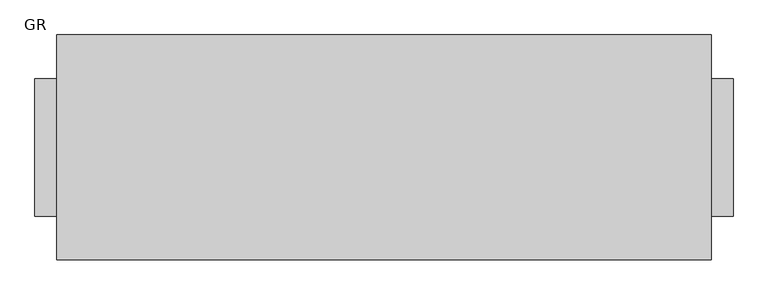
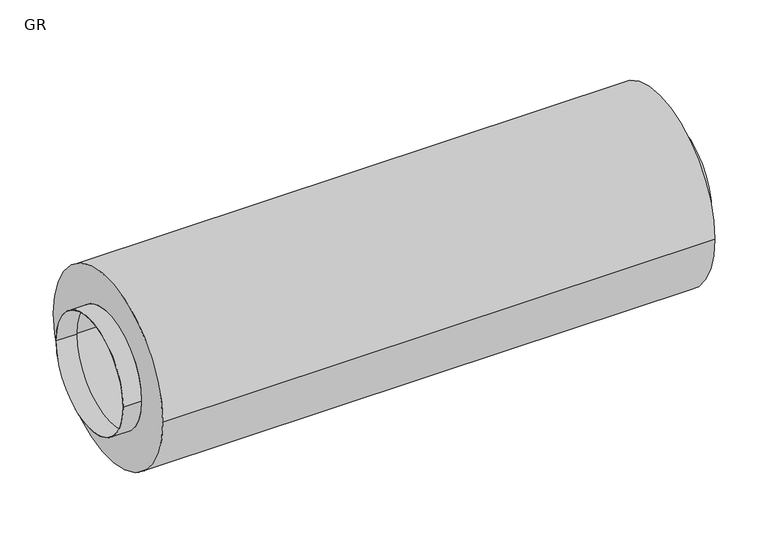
"""IFC4 building model written with IfcOpenShell, lengths in millimetres: damper geometry, DUA_UN_Round sound attenuator_SMA : GR."""

from ifc_helpers import new_model, si_unit, frame, origin, place, context, project, spatial, polyline, circle_curve, source, transform, mapped, element, save
from ifc_brep_helpers import plane_surface, cylinder_surface, revolved_surface, advanced_brep


def gr_9b835bf4(model_context):
    return source(origin(), model_context, "Body", "AdvancedBrep", [
        advanced_brep(
        [(745.0, 156.5, 0.0), (745.0, -156.5, 0.0), (800.0, -156.5, 0.0), (800.0, 156.5, 0.0), (-745.0, 157.5, 0.0), (-745.0, -157.5, 0.0), (745.0, -157.5, 0.0), (745.0, 157.5, 0.0), (-800.0, 156.5, 0.0), (-800.0, -156.5, 0.0), (-745.0, -156.5, 0.0), (-745.0, 156.5, 0.0), (-750.0, 157.5, 0.0), (-750.0, -157.5, 0.0), (-800.0, -157.5, 0.0), (-800.0, 157.5, 0.0), (750.0, 257.5, 0.0), (750.0, -257.5, 0.0), (-750.0, -257.5, 0.0), (-750.0, 257.5, 0.0), (800.0, 157.5, 0.0), (800.0, -157.5, 0.0), (750.0, -157.5, 0.0), (750.0, 157.5, 0.0)],
        [
            (0, 1, circle_curve(frame((745.0, 0.0, 0.0), z_axis=(-1.0, 0.0, 0.0), x_axis=(0.0, -1.0, 0.0)), 156.5)),
            (1, 2),
            (2, 3, circle_curve(frame((800.0, 0.0, 0.0), z_axis=(1.0, 0.0, 0.0), x_axis=(0.0, -1.0, 0.0)), 156.5)),
            (3, 0),
            (4, 5, circle_curve(frame((-745.0, 0.0, 0.0), z_axis=(-1.0, 0.0, 0.0), x_axis=(0.0, -1.0, 0.0)), 157.5)),
            (5, 6),
            (6, 7, circle_curve(frame((745.0, 0.0, 0.0), z_axis=(1.0, 0.0, 0.0), x_axis=(0.0, -1.0, 0.0)), 157.5)),
            (7, 4),
            (8, 9, circle_curve(frame((-800.0, 0.0, 0.0), z_axis=(-1.0, 0.0, 0.0), x_axis=(0.0, -1.0, 0.0)), 156.5)),
            (9, 10),
            (10, 11, circle_curve(frame((-745.0, 0.0, 0.0), z_axis=(1.0, 0.0, 0.0), x_axis=(0.0, -1.0, 0.0)), 156.5)),
            (11, 8),
            (12, 13, circle_curve(frame((-750.0, 0.0, 0.0), z_axis=(-1.0, 0.0, 0.0), x_axis=(0.0, -1.0, 0.0)), 157.5)),
            (13, 14),
            (14, 15, circle_curve(frame((-800.0, 0.0, 0.0), z_axis=(1.0, 0.0, 0.0), x_axis=(0.0, -1.0, 0.0)), 157.5)),
            (15, 12),
            (16, 17, circle_curve(frame((750.0, 0.0, 0.0), z_axis=(-1.0, 0.0, 0.0), x_axis=(0.0, -1.0, 0.0)), 257.5)),
            (17, 18),
            (18, 19, circle_curve(frame((-750.0, 0.0, 0.0), z_axis=(1.0, 0.0, 0.0), x_axis=(0.0, -1.0, 0.0)), 257.5)),
            (19, 16),
            (20, 21, circle_curve(frame((800.0, 0.0, 0.0), z_axis=(-1.0, 0.0, 0.0), x_axis=(0.0, -1.0, 0.0)), 157.5)),
            (21, 22),
            (22, 23, circle_curve(frame((750.0, 0.0, 0.0), z_axis=(1.0, 0.0, 0.0), x_axis=(0.0, -1.0, 0.0)), 157.5)),
            (23, 20),
            (1, 0, circle_curve(frame((745.0, 0.0, 0.0), z_axis=(-1.0, 0.0, 0.0), x_axis=(0.0, 1.0, 0.0)), 156.5)),
            (3, 2, circle_curve(frame((800.0, 0.0, 0.0), z_axis=(1.0, 0.0, 0.0), x_axis=(0.0, 1.0, 0.0)), 156.5)),
            (6, 7, circle_curve(frame((745.0, 0.0, 0.0), z_axis=(-1.0, 0.0, 0.0), x_axis=(0.0, 1.0, 0.0)), 157.5)),
            (5, 4, circle_curve(frame((-745.0, 0.0, 0.0), z_axis=(-1.0, 0.0, 0.0), x_axis=(0.0, 1.0, 0.0)), 157.5)),
            (10, 11, circle_curve(frame((-745.0, 0.0, 0.0), z_axis=(-1.0, 0.0, 0.0), x_axis=(0.0, 1.0, 0.0)), 156.5)),
            (9, 8, circle_curve(frame((-800.0, 0.0, 0.0), z_axis=(-1.0, 0.0, 0.0), x_axis=(0.0, 1.0, 0.0)), 156.5)),
            (14, 15, circle_curve(frame((-800.0, 0.0, 0.0), z_axis=(-1.0, 0.0, 0.0), x_axis=(0.0, 1.0, 0.0)), 157.5)),
            (13, 12, circle_curve(frame((-750.0, 0.0, 0.0), z_axis=(-1.0, 0.0, 0.0), x_axis=(0.0, 1.0, 0.0)), 157.5)),
            (18, 19, circle_curve(frame((-750.0, 0.0, 0.0), z_axis=(-1.0, 0.0, 0.0), x_axis=(0.0, 1.0, 0.0)), 257.5)),
            (17, 16, circle_curve(frame((750.0, 0.0, 0.0), z_axis=(-1.0, 0.0, 0.0), x_axis=(0.0, 1.0, 0.0)), 257.5)),
            (22, 23, circle_curve(frame((750.0, 0.0, 0.0), z_axis=(-1.0, 0.0, 0.0), x_axis=(0.0, 1.0, 0.0)), 157.5)),
            (21, 20, circle_curve(frame((800.0, 0.0, 0.0), z_axis=(-1.0, 0.0, 0.0), x_axis=(0.0, 1.0, 0.0)), 157.5)),
        ],
        [
            revolved_surface(polyline([(800.0, -156.5, 0.0), (745.0, -156.5, 0.0)]), (0.0, 0.0, 0.0), (1.0, 0.0, 0.0)),
            revolved_surface(polyline([(745.0, -157.5, 0.0), (-745.0, -157.5, 0.0)]), (0.0, 0.0, 0.0), (1.0, 0.0, 0.0)),
            revolved_surface(polyline([(-745.0, -156.5, 0.0), (-800.0, -156.5, 0.0)]), (0.0, 0.0, 0.0), (1.0, 0.0, 0.0)),
            cylinder_surface(frame((0.0, 0.0, 0.0), z_axis=(1.0, 0.0, 0.0), x_axis=(0.0, -1.0, 0.0)), 157.5),
            cylinder_surface(frame((0.0, 0.0, 0.0), z_axis=(1.0, 0.0, 0.0), x_axis=(0.0, -1.0, 0.0)), 257.5),
            revolved_surface(polyline([(800.0, 156.5, 0.0), (745.0, 156.5, 0.0)]), (0.0, 0.0, 0.0), (1.0, 0.0, 0.0)),
            plane_surface(frame((745.0, 0.0, 0.0), z_axis=(-1.0, 0.0, 0.0), x_axis=(0.0, 1.0, 0.0))),
            revolved_surface(polyline([(745.0, 157.5, 0.0), (-745.0, 157.5, 0.0)]), (0.0, 0.0, 0.0), (1.0, 0.0, 0.0)),
            plane_surface(frame((-745.0, 0.0, 0.0), z_axis=(1.0, 0.0, 0.0), x_axis=(0.0, 1.0, 0.0))),
            revolved_surface(polyline([(-745.0, 156.5, 0.0), (-800.0, 156.5, 0.0)]), (0.0, 0.0, 0.0), (1.0, 0.0, 0.0)),
            plane_surface(frame((-800.0, 0.0, 0.0), z_axis=(-1.0, 0.0, 0.0), x_axis=(0.0, 1.0, 0.0))),
            cylinder_surface(frame((0.0, 0.0, 0.0), z_axis=(1.0, 0.0, 0.0), x_axis=(0.0, 1.0, 0.0)), 157.5),
            plane_surface(frame((-750.0, 0.0, 0.0), z_axis=(-1.0, 0.0, 0.0), x_axis=(0.0, 1.0, 0.0))),
            cylinder_surface(frame((0.0, 0.0, 0.0), z_axis=(1.0, 0.0, 0.0), x_axis=(0.0, 1.0, 0.0)), 257.5),
            plane_surface(frame((750.0, 0.0, 0.0), z_axis=(1.0, 0.0, 0.0), x_axis=(0.0, 1.0, 0.0))),
            plane_surface(frame((800.0, 0.0, 0.0), z_axis=(1.0, 0.0, 0.0), x_axis=(0.0, 1.0, 0.0))),
        ],
        [
            (0, [[1, 2, 3, 4]]),
            (1, [[5, 6, 7, 8]]),
            (2, [[9, 10, 11, 12]]),
            (3, [[13, 14, 15, 16]]),
            (4, [[17, 18, 19, 20]]),
            (3, [[21, 22, 23, 24]]),
            (5, [[25, -4, 26, -2]]),
            (6, [[27, -7], [-25, -1]]),
            (7, [[28, -8, -27, -6]]),
            (8, [[-28, -5], [29, -11]]),
            (9, [[30, -12, -29, -10]]),
            (10, [[31, -15], [-30, -9]]),
            (11, [[32, -16, -31, -14]]),
            (12, [[33, -19], [-32, -13]]),
            (13, [[34, -20, -33, -18]]),
            (14, [[-34, -17], [35, -23]]),
            (11, [[36, -24, -35, -22]]),
            (15, [[-36, -21], [-26, -3]]),
        ],
    ),
    ])


if __name__ == "__main__":
    model = new_model("IFC4")
    model_context = context("Model", 3, world=origin())
    ifc_project = project(units=[si_unit("LENGTHUNIT", "METRE", prefix="MILLI")], contexts=[model_context])
    site = spatial("IfcSite", under=ifc_project)
    building = spatial("IfcBuilding", under=site)
    placement = place(None, origin())
    gr_shape = gr_9b835bf4(model_context)
    element("IfcDamper", 1, ObjectType="DUA_UN_Round sound attenuator_SMA : GR", at=placement, inside=building, context=model_context, shape_type="MappedRepresentation", body=[
        mapped(gr_shape, transform((0.0, 0.0, 0.0), x_axis=(1.0, 0.0, 0.0), y_axis=(0.0, 1.0, 0.0), z_axis=(0.0, 0.0, 1.0))),
    ])
    save(model, "model.ifc")
